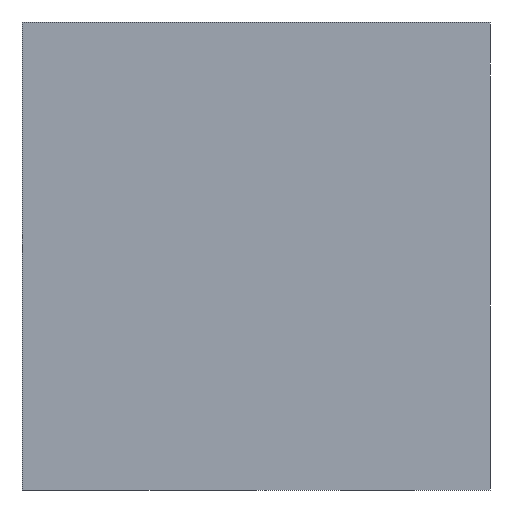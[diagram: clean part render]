
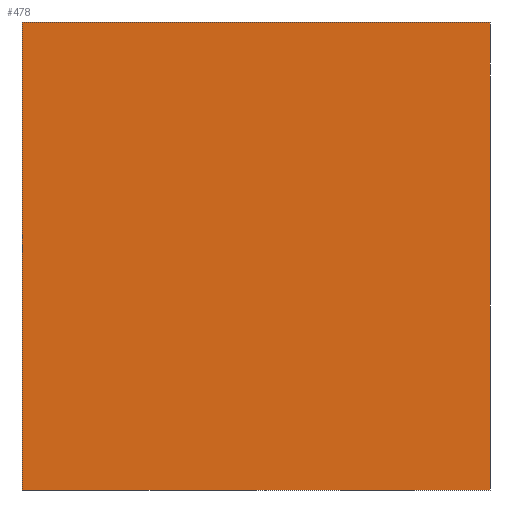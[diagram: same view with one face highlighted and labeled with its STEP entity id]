
A CAD part, left-side view. The second image highlights one B-rep face of the part: STEP entity #478.
In plain terms, the highlighted planar face has unit normal (-1, 0, 0).
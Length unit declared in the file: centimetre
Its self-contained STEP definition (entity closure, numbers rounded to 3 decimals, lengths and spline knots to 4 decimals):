
#27 = CARTESIAN_POINT ( 'NONE',  ( 0., 1000., 0. ) ) ;
#33 = ORIENTED_EDGE ( 'NONE', *, *, #175, .T. ) ;
#36 = DIRECTION ( 'NONE',  ( 0., 0., -1. ) ) ;
#37 = EDGE_CURVE ( 'NONE', #325, #287, #398, .T. ) ;
#48 = VERTEX_POINT ( 'NONE', #27 ) ;
#53 = DIRECTION ( 'NONE',  ( 0., 0., -1. ) ) ;
#96 = PLANE ( 'NONE',  #226 ) ;
#122 = CARTESIAN_POINT ( 'NONE',  ( 0., 0., 0. ) ) ;
#151 = CARTESIAN_POINT ( 'NONE',  ( 0., 1000., 0. ) ) ;
#162 = DIRECTION ( 'NONE',  ( 0., -1., 0. ) ) ;
#173 = VECTOR ( 'NONE', #162, 100. ) ;
#175 = EDGE_CURVE ( 'NONE', #325, #48, #361, .T. ) ;
#180 = DIRECTION ( 'NONE',  ( 1., 0., 0. ) ) ;
#181 = VECTOR ( 'NONE', #36, 100. ) ;
#202 = EDGE_CURVE ( 'NONE', #287, #335, #439, .T. ) ;
#226 = AXIS2_PLACEMENT_3D ( 'NONE', #390, #180, #53 ) ;
#238 = ORIENTED_EDGE ( 'NONE', *, *, #202, .F. ) ;
#244 = ORIENTED_EDGE ( 'NONE', *, *, #255, .T. ) ;
#247 = ORIENTED_EDGE ( 'NONE', *, *, #37, .F. ) ;
#255 = EDGE_CURVE ( 'NONE', #48, #335, #364, .T. ) ;
#261 = VECTOR ( 'NONE', #326, 100. ) ;
#284 = CARTESIAN_POINT ( 'NONE',  ( 0., 0., 1000. ) ) ;
#287 = VERTEX_POINT ( 'NONE', #380 ) ;
#297 = VECTOR ( 'NONE', #318, 100. ) ;
#318 = DIRECTION ( 'NONE',  ( 0., -1., 0. ) ) ;
#325 = VERTEX_POINT ( 'NONE', #334 ) ;
#326 = DIRECTION ( 'NONE',  ( 0., 0., -1. ) ) ;
#334 = CARTESIAN_POINT ( 'NONE',  ( 0., 1000., 1000. ) ) ;
#335 = VERTEX_POINT ( 'NONE', #122 ) ;
#361 = LINE ( 'NONE', #529, #261 ) ;
#364 = LINE ( 'NONE', #151, #297 ) ;
#380 = CARTESIAN_POINT ( 'NONE',  ( 0., 0., 1000. ) ) ;
#390 = CARTESIAN_POINT ( 'NONE',  ( 0., 1000., 1000. ) ) ;
#398 = LINE ( 'NONE', #520, #173 ) ;
#409 = EDGE_LOOP ( 'NONE', ( #244, #238, #247, #33 ) ) ;
#439 = LINE ( 'NONE', #284, #181 ) ;
#470 = FACE_OUTER_BOUND ( 'NONE', #409, .T. ) ;
#478 = ADVANCED_FACE ( 'NONE', ( #470 ), #96, .F. ) ;
#520 = CARTESIAN_POINT ( 'NONE',  ( 0., 1000., 1000. ) ) ;
#529 = CARTESIAN_POINT ( 'NONE',  ( 0., 1000., 1000. ) ) ;
